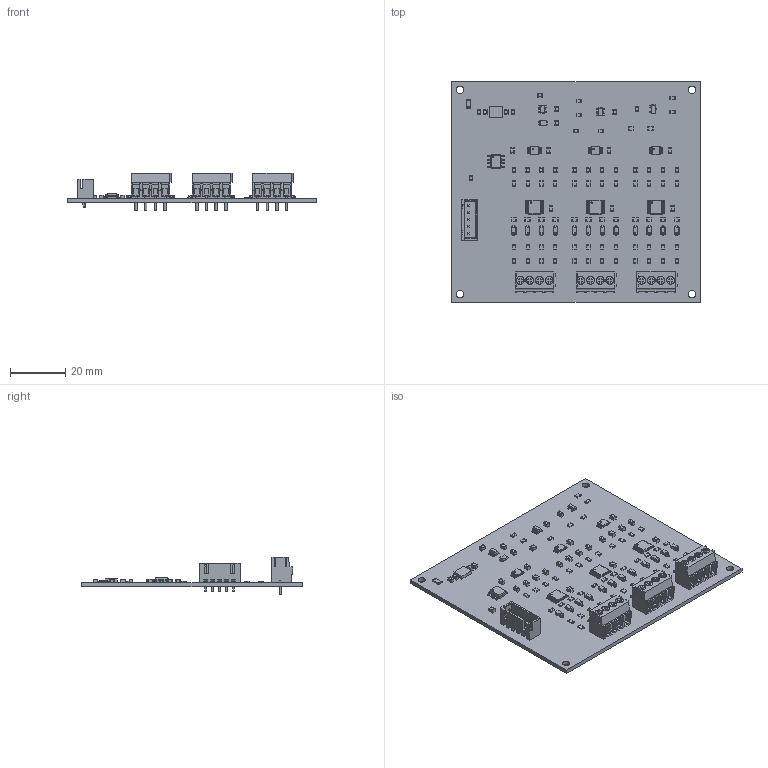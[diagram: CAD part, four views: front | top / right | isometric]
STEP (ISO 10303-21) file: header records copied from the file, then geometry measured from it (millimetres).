
FILE_DESCRIPTION(('KiCad electronic assembly'),'2;1');
FILE_NAME('tester12v.step','2026-09-30T13:48:18',('Pcbnew'),('Kicad'), 'Open CASCADE STEP processor 7.8','KiCad to STEP converter','Unknown' );
FILE_SCHEMA(('AUTOMOTIVE_DESIGN { 1 0 10303 214 1 1 1 1 }'));
Length unit declared in the file: millimetre
Products named in the file (16): tester12v 1; R_0805_2012Metric; C_0805_2012Metric; Nexperia_CFP3_SOD-123W; tester12v 1.5.1; D_SOD-123; JST_XH_B5B-XH-A_1x05_P2.50mm_Vertical; TSSOP-10_3x3mm_P0.5mm; SOT-23-5; TerminalBlock_Phoenix_PT-1,5-4-3.5-H_1x04_P3.50mm_Horizontal; TSSOP-16_4.4x5mm_P0.65mm; Fuse_1206_3216Metric; MIE1W0505BGLVH; SOIC-8_3.9x4.9mm_P1.27mm; SOT-23; tester12v_PCB
Assembly tree (116 placements, depth 3):
  tester12v 1
    R_0805_2012Metric  x55
    C_0805_2012Metric  x30
    Nexperia_CFP3_SOD-123W
      tester12v 1.5.1
    D_SOD-123  x12
    JST_XH_B5B-XH-A_1x05_P2.50mm_Vertical
    TSSOP-10_3x3mm_P0.5mm  x3
    SOT-23-5  x2
    TerminalBlock_Phoenix_PT-1,5-4-3.5-H_1x04_P3.50mm_Horizontal  x3
    TSSOP-16_4.4x5mm_P0.65mm  x3
    Fuse_1206_3216Metric
    MIE1W0505BGLVH
    SOIC-8_3.9x4.9mm_P1.27mm
    SOT-23
    tester12v_PCB
Bounding box: 90 x 80 x 13.7 mm (x, y, z)
Volume: 13514.6 mm3; surface area: 21295.6 mm2
Topology: 118 solids, 118 shells, 5616 faces, 14714 edges, 9462 vertices
Faces by surface type: plane 3863, cylinder 1415, bspline 338
Full cylindrical faces by diameter (mm): 0.9 x12, 0.95 x5, 1.2 x12, 2.7 x16, 2.9 x12
Entity records: 52338 total; most frequent: CARTESIAN_POINT 7719, ORIENTED_EDGE 7078, DIRECTION 6695, EDGE_CURVE 3540, LINE 2825, VECTOR 2825, VERTEX_POINT 2259, AXIS2_PLACEMENT_3D 1935
